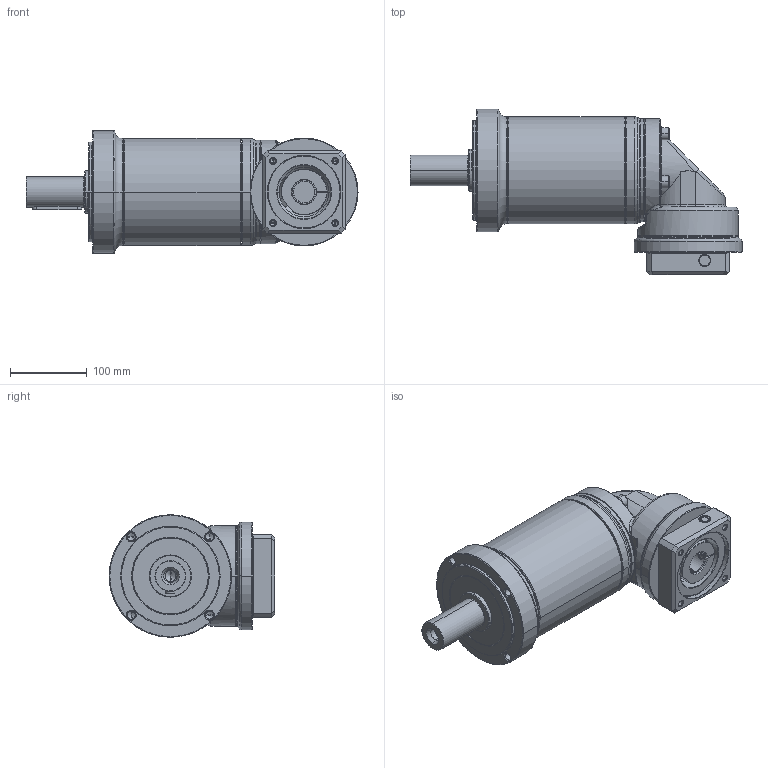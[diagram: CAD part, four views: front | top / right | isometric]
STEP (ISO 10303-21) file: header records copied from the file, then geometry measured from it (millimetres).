
FILE_DESCRIPTION((''),'2;1');
FILE_NAME('PG2R-160_3ST_28-P0411600101_ASM','2016-04-28T',('d01943'),(''),'PRO/ENGINEER BY PARAMETRIC TECHNOLOGY CORPORATION, 2008410','PRO/ENGINEER BY PARAMETRIC TECHNOLOGY CORPORATION, 2008410','');
FILE_SCHEMA(('CONFIG_CONTROL_DESIGN'));
Length unit declared in the file: millimetre
Products named in the file (12): P1325510001; P0273500001; P0350501103; P1349500001; P1017500001; P0713502001; P0503600008; P1350500201; P0411600101; P1702500001; 2111BA10040; PG2R-160_3ST_28-P0411600101_ASM
Assembly tree (14 placements, depth 2):
  PG2R-160_3ST_28-P0411600101_ASM
    P1325510001
    P0273500001
    P0350501103
    P1349500001
    P1017500001
    P0713502001
    P0503600008
    P1350500201
    P0411600101
    P1702500001
    2111BA10040  x4
Bounding box: 434 x 216.5 x 160 mm (x, y, z)
Volume: 3134234.5 mm3; surface area: 525856.3 mm2
Topology: 14 solids, 15 shells, 715 faces, 1571 edges, 910 vertices
Faces by surface type: cylinder 221, cone 198, plane 156, torus 108, bspline 32
Entity records: 22675 total; most frequent: CARTESIAN_POINT 8866, DIRECTION 3071, ORIENTED_EDGE 2666, EDGE_CURVE 1333, AXIS2_PLACEMENT_3D 1301, VERTEX_POINT 790, EDGE_LOOP 693, CIRCLE 691
